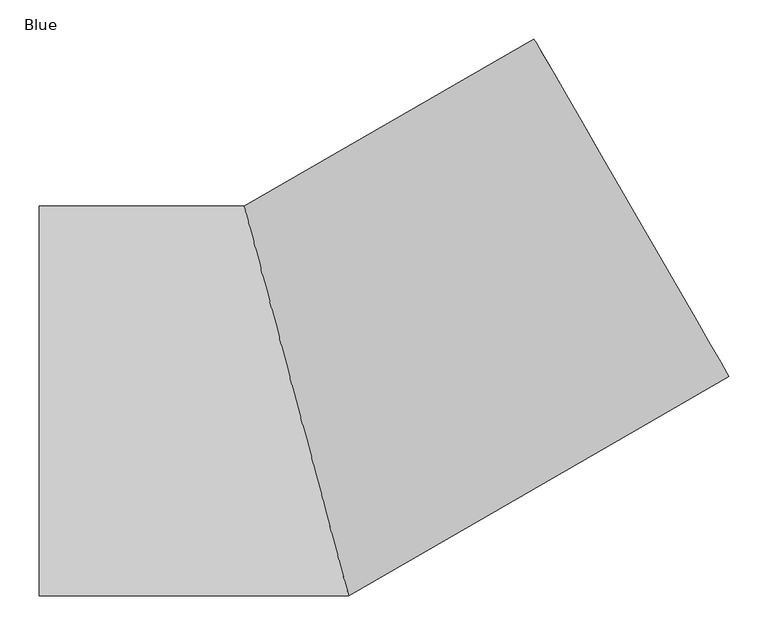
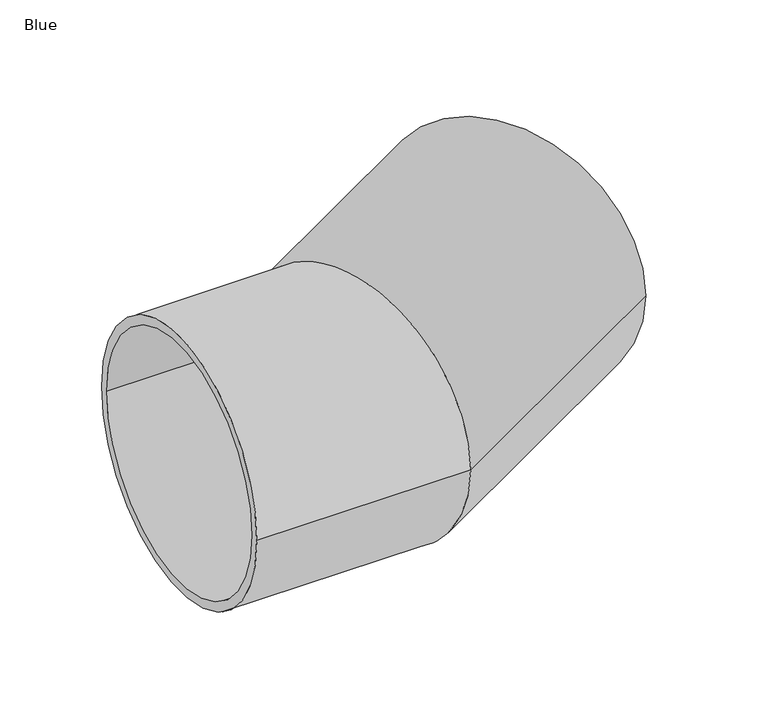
"""IFC4 building model written with IfcOpenShell, lengths in millimetres: pipe fitting geometry, AWADUKT PP SN10 SBend : Blue."""

from ifc_helpers import new_model, si_unit, frame, origin, place, context, project, spatial, polyline, circle_curve, ellipse_curve, source, transform, mapped, element, save
from ifc_brep_helpers import plane_surface, cylinder_surface, revolved_surface, advanced_brep


def blue_fd0dfc69(model_context):
    return source(origin(), model_context, "Body", "AdvancedBrep", [
        advanced_brep(
        [(304.5486003, 464.5063509, 0.0), (554.5486003, 31.4936491, 0.0), (313.0986003, 449.6973165, 0.0), (545.9986003, 46.3026835, 0.0), (-62.4053669, 232.9, 0.0), (62.4053669, -232.9, 0.0), (-66.9872981, 250.0, 0.0), (66.9872981, -250.0, 0.0), (-330.0, 250.0, 0.0), (-330.0, -250.0, 0.0), (-330.0, 232.9, 0.0), (-330.0, -232.9, 0.0)],
        [
            (0, 1, circle_curve(frame((429.5486003, 248.0, 0.0), z_axis=(0.866025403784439, 0.4999999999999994, 0.0), x_axis=(0.4999999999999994, -0.866025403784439, 0.0)), 250.0)),
            (1, 0, circle_curve(frame((429.5486003, 248.0, 0.0), z_axis=(0.866025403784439, 0.4999999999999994, 0.0), x_axis=(0.4999999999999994, -0.866025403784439, 0.0)), 250.0)),
            (2, 3, circle_curve(frame((429.5486003, 248.0, 0.0), z_axis=(-0.866025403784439, -0.4999999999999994, 0.0), x_axis=(0.4999999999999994, -0.866025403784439, 0.0)), 232.9)),
            (3, 2, circle_curve(frame((429.5486003, 248.0, 0.0), z_axis=(-0.866025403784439, -0.4999999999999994, 0.0), x_axis=(0.4999999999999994, -0.866025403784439, 0.0)), 232.9)),
            (2, 4),
            (4, 5, ellipse_curve(frame((0.0, 0.0, 0.0), z_axis=(-0.9659258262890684, -0.25881904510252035, 0.0), x_axis=(0.25881904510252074, -0.9659258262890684, 0.0)), 241.1158224, 232.9)),
            (5, 3),
            (5, 4, ellipse_curve(frame((0.0, 0.0, 0.0), z_axis=(-0.9659258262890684, -0.25881904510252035, 0.0), x_axis=(0.25881904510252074, -0.9659258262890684, 0.0)), 241.1158224, 232.9)),
            (0, 6),
            (6, 7, ellipse_curve(frame((0.0, 0.0, 0.0), z_axis=(0.9659258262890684, 0.25881904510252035, 0.0), x_axis=(-0.25881904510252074, 0.9659258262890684, 0.0)), 258.8190451, 250.0)),
            (7, 1),
            (7, 6, ellipse_curve(frame((0.0, 0.0, 0.0), z_axis=(0.9659258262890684, 0.25881904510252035, 0.0), x_axis=(-0.25881904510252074, 0.9659258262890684, 0.0)), 258.8190451, 250.0)),
            (8, 9, circle_curve(frame((-330.0, 0.0, 0.0), z_axis=(-1.0, 0.0, 0.0), x_axis=(0.0, -1.0, 0.0)), 250.0)),
            (9, 8, circle_curve(frame((-330.0, 0.0, 0.0), z_axis=(-1.0, 0.0, 0.0), x_axis=(0.0, -1.0, 0.0)), 250.0)),
            (10, 11, circle_curve(frame((-330.0, 0.0, 0.0), z_axis=(1.0, 0.0, 0.0), x_axis=(0.0, -1.0, 0.0)), 232.9)),
            (11, 10, circle_curve(frame((-330.0, 0.0, 0.0), z_axis=(1.0, 0.0, 0.0), x_axis=(0.0, -1.0, 0.0)), 232.9)),
            (4, 10),
            (11, 5),
            (6, 8),
            (9, 7),
        ],
        [
            plane_surface(frame((429.5486003, 248.0, 0.0), z_axis=(0.866025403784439, 0.4999999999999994, 0.0), x_axis=(0.0, 0.0, 1.0))),
            revolved_surface(polyline([(62.40536691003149, -232.9000000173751, 0.0), (545.9986003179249, 46.3026834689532, 0.0)]), (429.5486003, 248.0, 0.0), (-0.866025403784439, -0.4999999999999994, 0.0)),
            cylinder_surface(frame((429.5486003, 248.0, 0.0), z_axis=(0.866025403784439, 0.4999999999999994, 0.0), x_axis=(0.4999999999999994, -0.866025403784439, 0.0)), 250.0),
            plane_surface(frame((-330.0, 0.0, 0.0), z_axis=(-1.0, 0.0, 0.0), x_axis=(0.0, 0.0, 1.0))),
            revolved_surface(polyline([(-330.0, -232.9, 0.0), (62.40536691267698, -232.9, 0.0)]), (0.0, 0.0, 0.0), (-1.0, 0.0, 0.0)),
            cylinder_surface(frame((0.0, 0.0, 0.0), z_axis=(1.0, 0.0, 0.0), x_axis=(0.0, -1.0, 0.0)), 250.0),
        ],
        [
            (0, [[1, 2], [3, 4]]),
            (1, [[-3, 5, 6, 7]]),
            (1, [[-4, -7, 8, -5]]),
            (2, [[-1, 9, 10, 11]]),
            (2, [[-2, -11, 12, -9]]),
            (3, [[13, 14], [15, 16]]),
            (4, [[-6, 17, -16, 18]]),
            (4, [[-8, -18, -15, -17]]),
            (5, [[-10, 19, -14, 20]]),
            (5, [[-12, -20, -13, -19]]),
        ],
    ),
    ])


if __name__ == "__main__":
    model = new_model("IFC4")
    model_context = context("Model", 3, world=origin())
    ifc_project = project(units=[si_unit("LENGTHUNIT", "METRE", prefix="MILLI")], contexts=[model_context])
    site = spatial("IfcSite", under=ifc_project)
    building = spatial("IfcBuilding", under=site)
    placement = place(None, origin())
    blue_shape = blue_fd0dfc69(model_context)
    element("IfcPipeFitting", 1, ObjectType="AWADUKT PP SN10 SBend : Blue", at=placement, inside=building, context=model_context, shape_type="MappedRepresentation", body=[
        mapped(blue_shape, transform((0.0, 0.0, 0.0), x_axis=(1.0, 0.0, 0.0), y_axis=(0.0, 1.0, 0.0), z_axis=(0.0, 0.0, 1.0))),
    ])
    save(model, "model.ifc")
